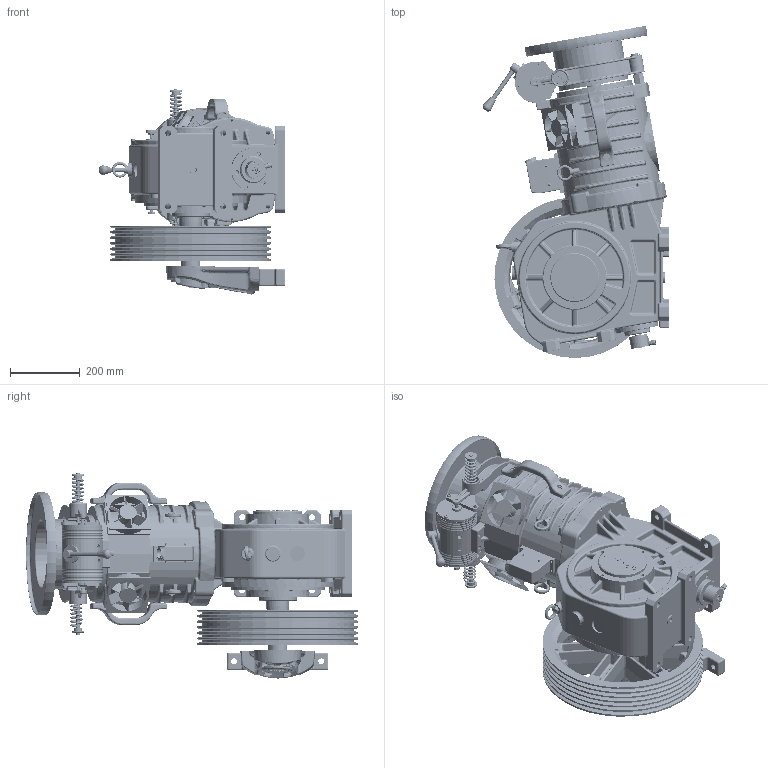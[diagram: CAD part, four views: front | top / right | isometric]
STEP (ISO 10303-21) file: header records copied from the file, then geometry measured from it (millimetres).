
FILE_DESCRIPTION (( 'STEP AP214' ), '1' );
FILE_NAME ('STL75080.STEP', '2026-01-21T09:20:04', ( '' ), ( '' ), 'SwSTEP 2.0', 'SolidWorks 2023', '' );
FILE_SCHEMA (( 'AUTOMOTIVE_DESIGN' ));
Length unit declared in the file: millimetre
Products named in the file (1): STL75080
Bounding box: 535.61 x 950.96 x 587.91 mm (x, y, z)
Volume: 58981603.6 mm3; surface area: 4147632.5 mm2
Topology: 38 solids, 63 shells, 6996 faces, 16561 edges, 9695 vertices
Faces by surface type: cylinder 2382, plane 1622, bspline 1337, torus 707, sphere 513, cone 435
Entity records: 280855 total; most frequent: CARTESIAN_POINT 129270, ORIENTED_EDGE 32662, DIRECTION 30958, EDGE_CURVE 16331, AXIS2_PLACEMENT_3D 12854, VERTEX_POINT 9657, EDGE_LOOP 7470, CIRCLE 7194
